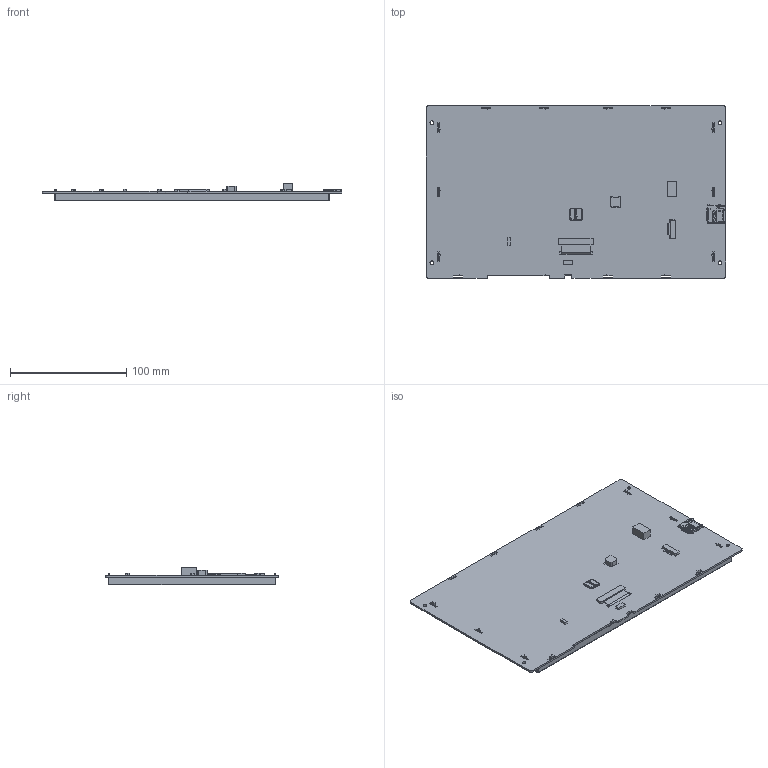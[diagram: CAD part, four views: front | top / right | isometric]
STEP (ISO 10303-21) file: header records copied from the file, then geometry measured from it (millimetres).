
FILE_DESCRIPTION(/* description */ (''),/* implementation_level */ '2;1');
FILE_NAME(/* name */ 'VTc101C34N.stp',/* time_stamp */ '2024-04-19T09:59:23+08:00',/* author */ (''),/* organization */ (''),/* preprocessor_version */ 'ST-DEVELOPER v16',/* originating_system */ 'SIEMENS PLM Software NX 10.0',/* authorisation */ '');
FILE_SCHEMA (('AP203_CONFIGURATION_CONTROLLED_3D_DESIGN_OF_MECHANICAL_PARTS_AND_ASSEMBLIES_MIM_LF { 1 0 10303 403 2 1 2}'));
Products named in the file (1): VTc101C34N
Bounding box: 257.8 x 148.1 x 15.1 mm (x, y, z)
Volume: 69060.4 mm3; surface area: 158308.8 mm2
Topology: 16 solids, 16 shells, 2330 faces, 6741 edges, 4432 vertices
Faces by surface type: plane 1867, cylinder 452, bspline 7, extrusion 3, cone 1
Full cylindrical faces by diameter (mm): 3.2 x4
Entity records: 78110 total; most frequent: CARTESIAN_POINT 14429, ORIENTED_EDGE 13474, DIRECTION 12078, EDGE_CURVE 6737, VECTOR 5684, LINE 5681, VERTEX_POINT 4432, AXIS2_PLACEMENT_3D 3197
